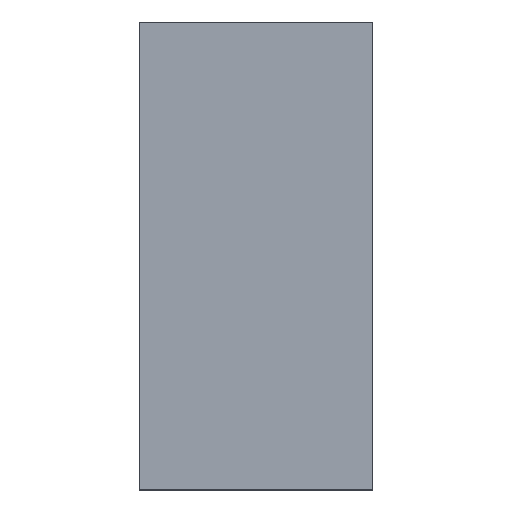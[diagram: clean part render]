
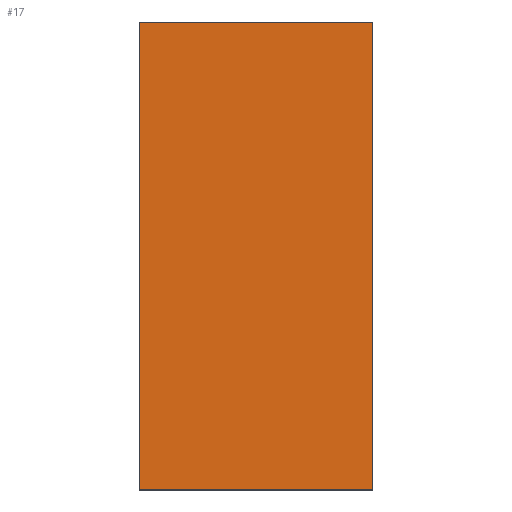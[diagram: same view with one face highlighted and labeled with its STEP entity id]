
A CAD part, top view. The second image highlights one B-rep face of the part: STEP entity #17.
In plain terms, the highlighted planar face has unit normal (0, 0, 1).
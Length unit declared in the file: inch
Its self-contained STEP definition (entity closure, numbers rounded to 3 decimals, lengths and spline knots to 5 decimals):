
#17=ADVANCED_FACE('',(#23),#91,.T.);
#23=FACE_OUTER_BOUND('',#29,.T.);
#29=EDGE_LOOP('',(#44,#45,#46,#47));
#44=ORIENTED_EDGE('',*,*,#64,.F.);
#45=ORIENTED_EDGE('',*,*,#65,.T.);
#46=ORIENTED_EDGE('',*,*,#66,.T.);
#47=ORIENTED_EDGE('',*,*,#59,.F.);
#59=EDGE_CURVE('',#83,#80,#71,.T.);
#64=EDGE_CURVE('',#86,#83,#76,.T.);
#65=EDGE_CURVE('',#86,#87,#77,.T.);
#66=EDGE_CURVE('',#87,#80,#78,.T.);
#71=B_SPLINE_CURVE_WITH_KNOTS('',1,(#223,#224),.UNSPECIFIED.,.F.,.F.,(2,
2),(0.,48.),.UNSPECIFIED.);
#76=B_SPLINE_CURVE_WITH_KNOTS('',1,(#233,#234),.UNSPECIFIED.,.F.,.F.,(2,
2),(0.,96.),.UNSPECIFIED.);
#77=B_SPLINE_CURVE_WITH_KNOTS('',1,(#235,#236),.UNSPECIFIED.,.F.,.F.,(2,
2),(0.,48.),.UNSPECIFIED.);
#78=B_SPLINE_CURVE_WITH_KNOTS('',1,(#237,#238),.UNSPECIFIED.,.F.,.F.,(2,
2),(0.,96.),.UNSPECIFIED.);
#80=VERTEX_POINT('',#209);
#83=VERTEX_POINT('',#212);
#86=VERTEX_POINT('',#215);
#87=VERTEX_POINT('',#216);
#91=PLANE('',#188);
#188=AXIS2_PLACEMENT_3D('',#206,#197,$);
#197=DIRECTION('',(0.,0.,1.));
#206=CARTESIAN_POINT('',(28.80472,57.60472,0.25));
#209=CARTESIAN_POINT('',(24.,48.,0.25));
#212=CARTESIAN_POINT('',(-24.,48.,0.25));
#215=CARTESIAN_POINT('',(-24.,-48.,0.25));
#216=CARTESIAN_POINT('',(24.,-48.,0.25));
#223=CARTESIAN_POINT('',(-24.,48.,0.25));
#224=CARTESIAN_POINT('',(24.,48.,0.25));
#233=CARTESIAN_POINT('',(-24.,-48.,0.25));
#234=CARTESIAN_POINT('',(-24.,48.,0.25));
#235=CARTESIAN_POINT('',(-24.,-48.,0.25));
#236=CARTESIAN_POINT('',(24.,-48.,0.25));
#237=CARTESIAN_POINT('',(24.,-48.,0.25));
#238=CARTESIAN_POINT('',(24.,48.,0.25));
